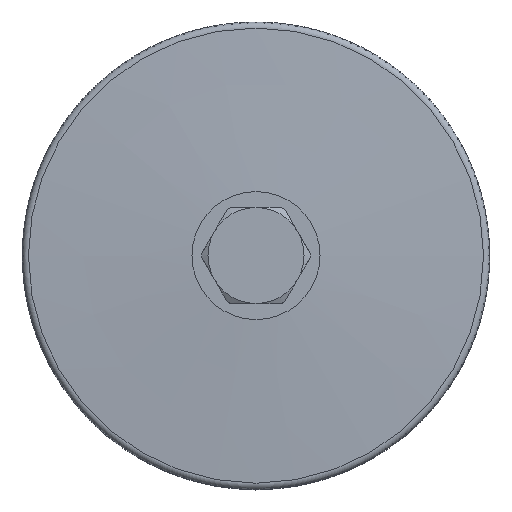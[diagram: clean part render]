
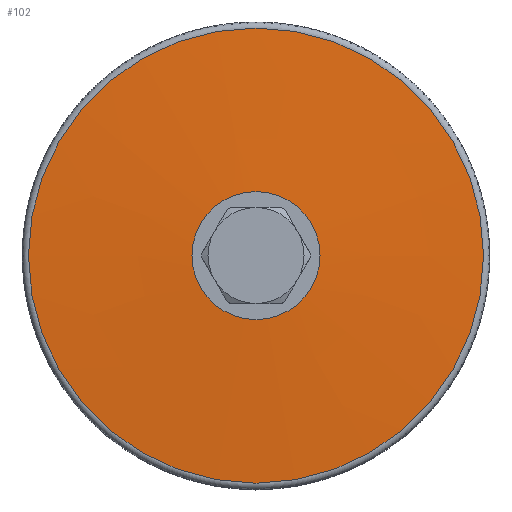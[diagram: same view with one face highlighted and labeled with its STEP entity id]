
A CAD part, top view. The second image highlights one B-rep face of the part: STEP entity #102.
In plain terms, the highlighted conical face has half-angle 87 degrees and reference radius 35.552 mm.
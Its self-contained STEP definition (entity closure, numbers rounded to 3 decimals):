
#102 = ADVANCED_FACE( '', ( #532, #533 ), #534, .T. );
#532 = FACE_BOUND( '', #1343, .T. );
#533 = FACE_OUTER_BOUND( '', #1344, .T. );
#534 = CONICAL_SURFACE( '', #1345, 35.552, 1.518 );
#1343 = EDGE_LOOP( '', ( #2649 ) );
#1344 = EDGE_LOOP( '', ( #2650 ) );
#1345 = AXIS2_PLACEMENT_3D( '', #2651, #2652, #2653 );
#2649 = ORIENTED_EDGE( '', *, *, #5597, .F. );
#2650 = ORIENTED_EDGE( '', *, *, #5600, .T. );
#2651 = CARTESIAN_POINT( '', ( 0., 0., 68.661 ) );
#2652 = DIRECTION( '', ( 0., 0., -1. ) );
#2653 = DIRECTION( '', ( -1., 0., 0. ) );
#5597 = EDGE_CURVE( '', #6762, #6762, #6763, .T. );
#5600 = EDGE_CURVE( '', #6767, #6767, #6768, .T. );
#6762 = VERTEX_POINT( '', #8711 );
#6763 = CIRCLE( '', #8712, 10. );
#6767 = VERTEX_POINT( '', #8717 );
#6768 = CIRCLE( '', #8718, 35.552 );
#8711 = CARTESIAN_POINT( '', ( 10., 0., 70. ) );
#8712 = AXIS2_PLACEMENT_3D( '', #14080, #14081, #14082 );
#8717 = CARTESIAN_POINT( '', ( 35.552, 0., 68.661 ) );
#8718 = AXIS2_PLACEMENT_3D( '', #14087, #14088, #14089 );
#14080 = CARTESIAN_POINT( '', ( 0., 0., 70. ) );
#14081 = DIRECTION( '', ( 0., 0., 1. ) );
#14082 = DIRECTION( '', ( 1., 0., 0. ) );
#14087 = CARTESIAN_POINT( '', ( 0., 0., 68.661 ) );
#14088 = DIRECTION( '', ( 0., 0., 1. ) );
#14089 = DIRECTION( '', ( 1., 0., 0. ) );
